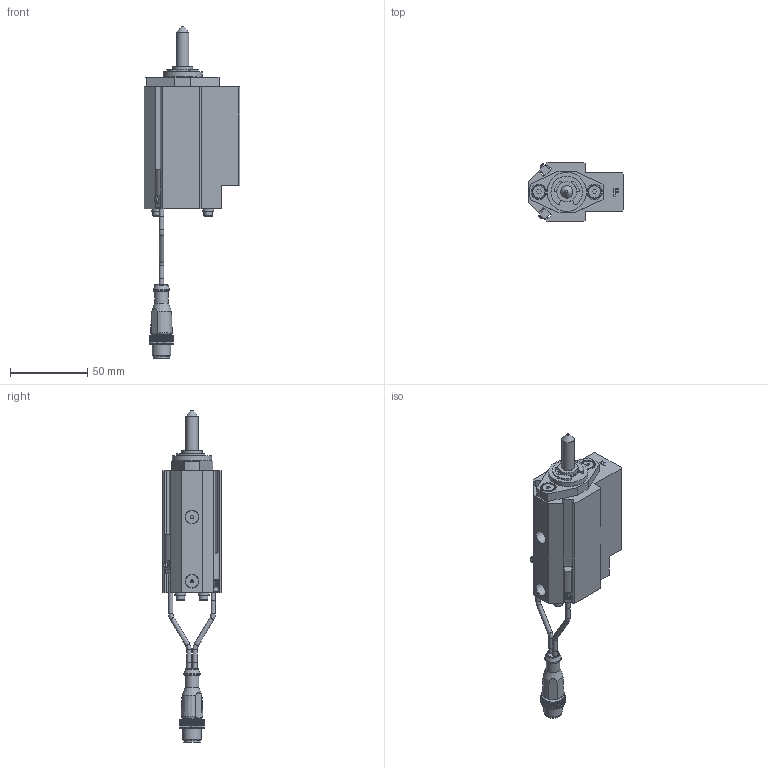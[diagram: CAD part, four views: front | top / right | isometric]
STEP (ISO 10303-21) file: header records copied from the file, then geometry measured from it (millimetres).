
FILE_DESCRIPTION(/* description */ ('NAAMS FLOATING MICRO PIN'),/* implementation_level */ '2;1');
FILE_NAME(/* name */ 'C:\Vault Workspace\CAD\Welker\Shot Pin\NMP\NMP080022FANL3.stp',/* time_stamp */ '2021-01-27T08:41:23-05:00',/* author */ ('WELKER'),/* organization */ (''),/* preprocessor_version */ 'ST-DEVELOPER v18.1',/* originating_system */ 'Autodesk Inventor 2020',/* authorisation */ '');
FILE_SCHEMA (('AUTOMOTIVE_DESIGN { 1 0 10303 214 3 1 1 }'));
Length unit declared in the file: millimetre
Products named in the file (16): NMPL01; NMP L3 SWITCH; L3 Connector; L3 Sensor 1; L3 Sensor 2; L3 Sensor cable; L3 Sensor cable 2; M3X0.5-8 SHCS; NL3; NMPE06; NMPE03; NMPE05-DIA-LENGTH; 985432A218; NMPE01F-PORT; RMPE02; M5X5 SHOULDER
Assembly tree (22 placements, depth 3):
  NMPL01
    NMP L3 SWITCH
      L3 Connector
      L3 Sensor 1
      L3 Sensor 2
      L3 Sensor cable
      L3 Sensor cable 2
    M3X0.5-8 SHCS  x4
    NL3  x4
    NMPE06
    NMPE03
    NMPE05-DIA-LENGTH
    985432A218
    NMPE01F-PORT
    RMPE02
    M5X5 SHOULDER  x2
Bounding box: 62 x 38.1 x 214.73 mm (x, y, z)
Volume: 112630.3 mm3; surface area: 44919 mm2
Topology: 21 solids, 21 shells, 746 faces, 2022 edges, 1352 vertices
Faces by surface type: plane 551, cylinder 144, cone 35, torus 11, sphere 3, bspline 2
Full cylindrical faces by diameter (mm): 2 x2, 2.459 x4, 2.9 x10, 3 x5, 3.242 x2, 3.4 x4, 4 x2, 5 x6, 5.5 x4, 7 x4, 8 x3, 8.3 x2, 8.376 x2, 9 x3, 10 x3, 10.4 x1, 10.5 x1, 12 x1, 13 x3, 16 x2, 19.05 x3, 21 x1, 22.5 x1, 23.672 x1, 24 x1, 25.4 x1, 25.5 x1, 26.5 x1, 28.677 x1, 29.21 x1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
Entity records: 22784 total; most frequent: CARTESIAN_POINT 4167, ORIENTED_EDGE 3738, DIRECTION 3725, EDGE_CURVE 1869, LINE 1381, VECTOR 1381, VERTEX_POINT 1257, AXIS2_PLACEMENT_3D 1172
